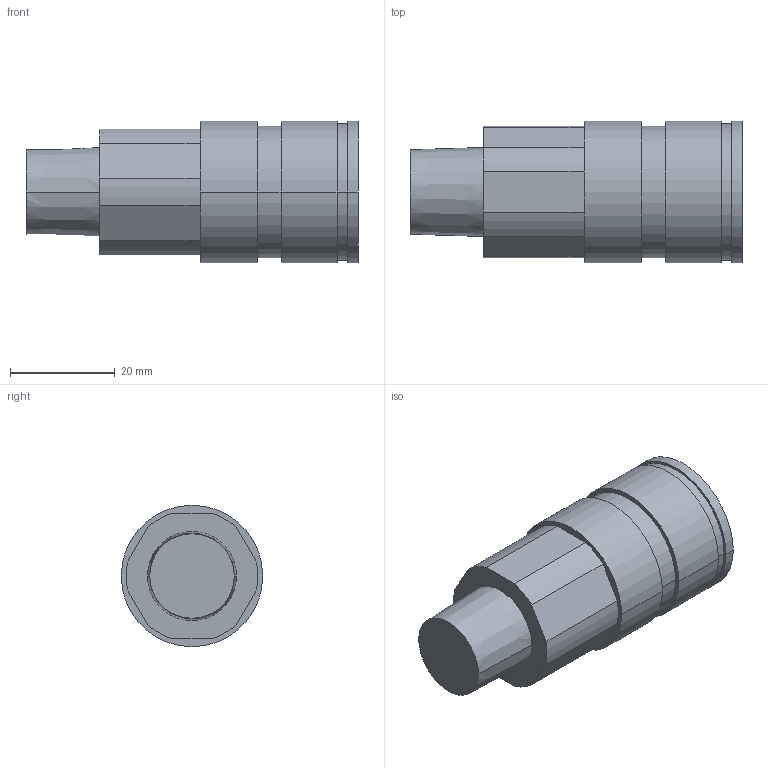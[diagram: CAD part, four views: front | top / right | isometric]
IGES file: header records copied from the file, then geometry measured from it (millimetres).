
Global section: file name: No Iges File Name specified; native system: Autodesk Inventor 2009; preprocessor: AutoDesk Inventor Iges Exporter R2009; author: y-shimohigashi; date: 20080701.161244; units: millimetre
Bounding box: 63.4 x 27 x 27 mm (x, y, z)
Volume: 22911.2 mm3; surface area: 7429.7 mm2
Topology: 1 solids, 1 shells, 35 faces, 78 edges, 52 vertices
Faces by surface type: cylinder 16, plane 15, cone 2, revolution 2
